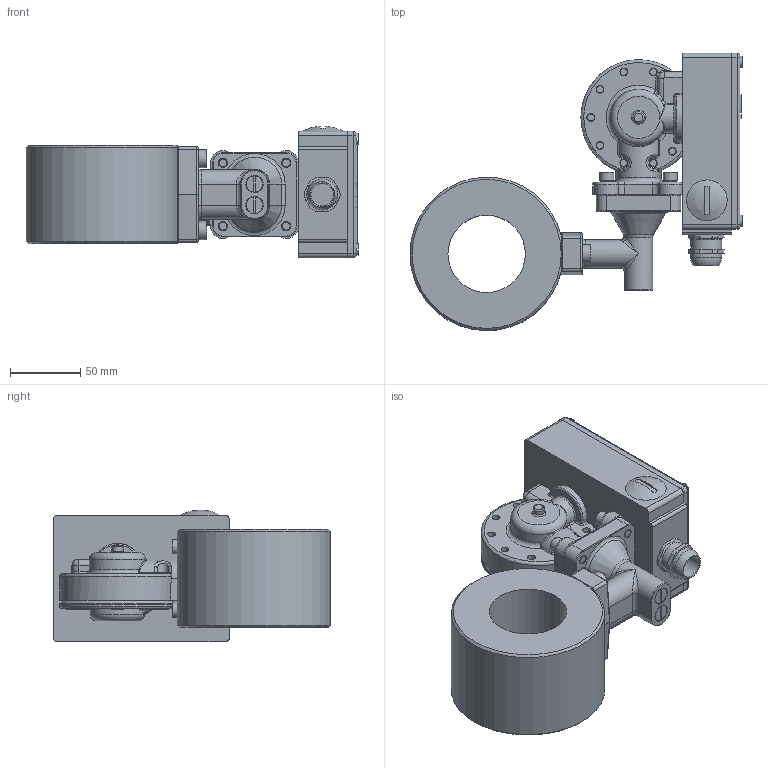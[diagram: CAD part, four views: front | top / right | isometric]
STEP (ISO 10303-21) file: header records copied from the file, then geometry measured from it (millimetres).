
FILE_DESCRIPTION(/* description */ ('Alibre Inc.'),/* implementation_level */ '2;1');
FILE_NAME(/* name */ 'export0',/* time_stamp */ '2012-10-15T13:31:27+02:00',/* author */ (''),/* organization */ (''),/* preprocessor_version */ 'ST-DEVELOPER v14',/* originating_system */ 'Alibre',/* authorisation */ '');
FILE_SCHEMA (('CONFIG_CONTROL_DESIGN'));
Length unit declared in the file: centimetre
Products named in the file (13): ID_1; ID_2; ID_3; ID_4; ID_5; ID_6; ID_7; ID_8; ID_9
Bounding box: 236 x 197.03 x 93.66 mm (x, y, z)
Volume: 877217 mm3; surface area: 220619.4 mm2
Topology: 29 solids, 29 shells, 1094 faces, 2576 edges, 1623 vertices
Faces by surface type: plane 540, cylinder 251, bspline 168, torus 65, cone 65, sphere 5
Full cylindrical faces by diameter (mm): 5 x23, 5.5 x18, 6 x12, 6.038 x2, 6.5 x4, 7.5 x1, 8 x18, 8.3 x9, 8.5 x2, 8.7 x2, 9.6 x4, 10 x4, 11.75 x2, 11.85 x1, 12 x2, 13 x2, 14 x2, 16 x1, 17.966 x1, 22 x2, 22.5 x4, 31 x1, 32 x1, 47 x1, 55 x1, 56 x2
Entity records: 34385 total; most frequent: CARTESIAN_POINT 14011, ORIENTED_EDGE 3922, DIRECTION 3181, EDGE_CURVE 1961, VERTEX_POINT 1309, AXIS2_PLACEMENT_3D 1303, EDGE_LOOP 1144, FACE_BOUND 1144
